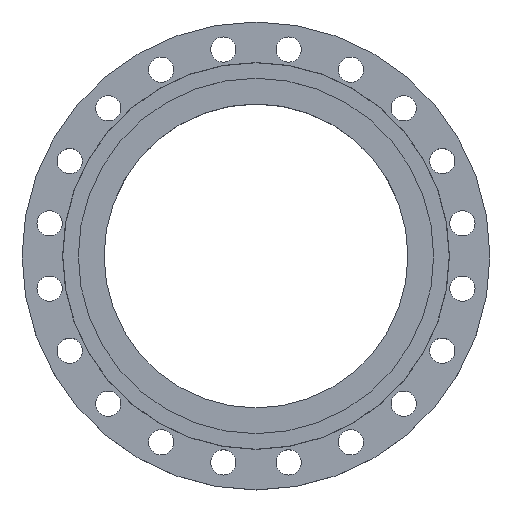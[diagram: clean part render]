
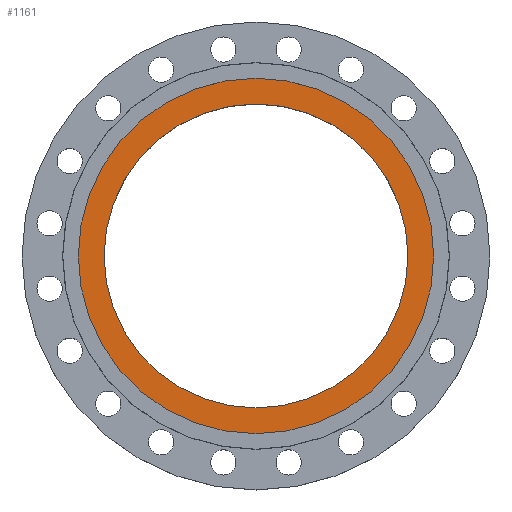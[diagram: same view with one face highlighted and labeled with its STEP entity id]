
A CAD part, top view. The second image highlights one B-rep face of the part: STEP entity #1161.
In plain terms, the highlighted planar face has unit normal (0, 0, 1).
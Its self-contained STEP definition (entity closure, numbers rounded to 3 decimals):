
#71 = CARTESIAN_POINT ( 'NONE',  ( 338., 0., -5. ) ) ;
#122 = CARTESIAN_POINT ( 'NONE',  ( -289., 0., -5. ) ) ;
#140 = AXIS2_PLACEMENT_3D ( 'NONE', #777, #775, #774 ) ;
#142 = CARTESIAN_POINT ( 'NONE',  ( 289., 0., -5. ) ) ;
#158 = EDGE_CURVE ( 'NONE', #1801, #1484, #437, .T. ) ;
#161 = EDGE_CURVE ( 'NONE', #1689, #1753, #457, .T. ) ;
#369 = CARTESIAN_POINT ( 'NONE',  ( -338., 0., -5. ) ) ;
#437 = CIRCLE ( 'NONE', #440, 338. ) ;
#440 = AXIS2_PLACEMENT_3D ( 'NONE', #1054, #1052, #1049 ) ;
#457 = CIRCLE ( 'NONE', #461, 289. ) ;
#461 = AXIS2_PLACEMENT_3D ( 'NONE', #1048, #1046, #1045 ) ;
#516 = AXIS2_PLACEMENT_3D ( 'NONE', #578, #577, #576 ) ;
#576 = DIRECTION ( 'NONE',  ( 1., 0., 0. ) ) ;
#577 = DIRECTION ( 'NONE',  ( 0., 0., 1. ) ) ;
#578 = CARTESIAN_POINT ( 'NONE',  ( 338., 0., -5. ) ) ;
#579 = PLANE ( 'NONE',  #516 ) ;
#580 = FACE_OUTER_BOUND ( 'NONE', #1426, .T. ) ;
#581 = FACE_BOUND ( 'NONE', #1560, .T. ) ;
#597 = DIRECTION ( 'NONE',  ( 1., 0., 0. ) ) ;
#599 = DIRECTION ( 'NONE',  ( 0., 0., -1. ) ) ;
#601 = CARTESIAN_POINT ( 'NONE',  ( 0., 0., -5. ) ) ;
#603 = CIRCLE ( 'NONE', #608, 289. ) ;
#608 = AXIS2_PLACEMENT_3D ( 'NONE', #601, #599, #597 ) ;
#771 = EDGE_CURVE ( 'NONE', #1484, #1801, #976, .T. ) ;
#774 = DIRECTION ( 'NONE',  ( -1., 0., 0. ) ) ;
#775 = DIRECTION ( 'NONE',  ( 0., 0., -1. ) ) ;
#777 = CARTESIAN_POINT ( 'NONE',  ( 0., 0., -5. ) ) ;
#976 = CIRCLE ( 'NONE', #140, 338. ) ;
#1045 = DIRECTION ( 'NONE',  ( 1., 0., 0. ) ) ;
#1046 = DIRECTION ( 'NONE',  ( 0., 0., -1. ) ) ;
#1048 = CARTESIAN_POINT ( 'NONE',  ( 0., 0., -5. ) ) ;
#1049 = DIRECTION ( 'NONE',  ( -1., 0., 0. ) ) ;
#1052 = DIRECTION ( 'NONE',  ( 0., 0., -1. ) ) ;
#1054 = CARTESIAN_POINT ( 'NONE',  ( 0., 0., -5. ) ) ;
#1140 = EDGE_CURVE ( 'NONE', #1753, #1689, #603, .T. ) ;
#1161 = ADVANCED_FACE ( 'NONE', ( #581, #580 ), #579, .T. ) ;
#1203 = ORIENTED_EDGE ( 'NONE', *, *, #158, .F. ) ;
#1204 = ORIENTED_EDGE ( 'NONE', *, *, #771, .F. ) ;
#1205 = ORIENTED_EDGE ( 'NONE', *, *, #161, .T. ) ;
#1206 = ORIENTED_EDGE ( 'NONE', *, *, #1140, .T. ) ;
#1426 = EDGE_LOOP ( 'NONE', ( #1204, #1203 ) ) ;
#1484 = VERTEX_POINT ( 'NONE', #369 ) ;
#1560 = EDGE_LOOP ( 'NONE', ( #1206, #1205 ) ) ;
#1689 = VERTEX_POINT ( 'NONE', #142 ) ;
#1753 = VERTEX_POINT ( 'NONE', #122 ) ;
#1801 = VERTEX_POINT ( 'NONE', #71 ) ;
